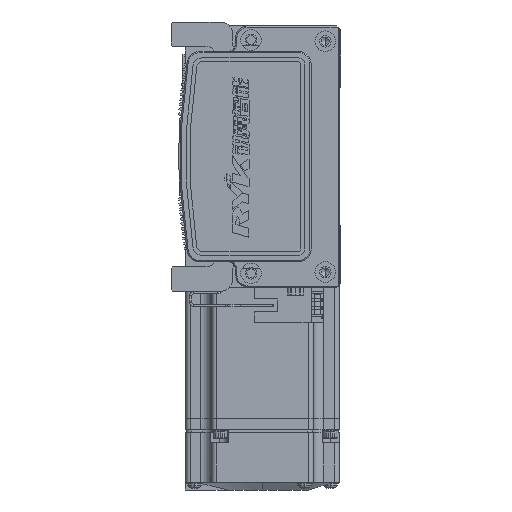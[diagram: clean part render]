
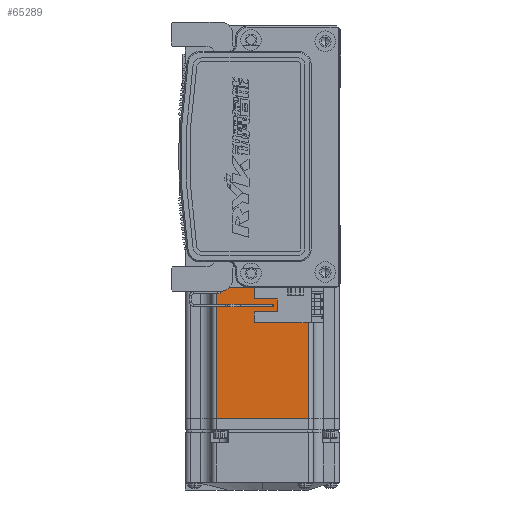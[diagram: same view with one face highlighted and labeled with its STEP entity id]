
A CAD part, left-side view. The second image highlights one B-rep face of the part: STEP entity #65289.
In plain terms, the highlighted planar face has unit normal (-1, 0, 0) as drawn and (0, 0, 1) by its records, which use the part's own axes.
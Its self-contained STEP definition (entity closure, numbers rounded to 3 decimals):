
#2870 = DIRECTION ( 'NONE',  ( 0., 0., 1. ) ) ;
#3095 = ORIENTED_EDGE ( 'NONE', *, *, #6697, .T. ) ;
#5149 = CARTESIAN_POINT ( 'NONE',  ( -6.5, -18., 30. ) ) ;
#5517 = CARTESIAN_POINT ( 'NONE',  ( -70.95, 0., 30. ) ) ;
#5604 = FACE_OUTER_BOUND ( 'NONE', #29617, .T. ) ;
#6586 = VECTOR ( 'NONE', #42618, 1000. ) ;
#6697 = EDGE_CURVE ( 'NONE', #25611, #19102, #34768, .T. ) ;
#9015 = ORIENTED_EDGE ( 'NONE', *, *, #64045, .F. ) ;
#9154 = VECTOR ( 'NONE', #54707, 1000. ) ;
#11230 = VERTEX_POINT ( 'NONE', #51414 ) ;
#16928 = CARTESIAN_POINT ( 'NONE',  ( -70.95, 18., 30. ) ) ;
#17792 = CARTESIAN_POINT ( 'NONE',  ( -6.5, 18., 30. ) ) ;
#19102 = VERTEX_POINT ( 'NONE', #58411 ) ;
#20193 = VERTEX_POINT ( 'NONE', #47122 ) ;
#21458 = VECTOR ( 'NONE', #31594, 1000. ) ;
#23482 = EDGE_CURVE ( 'NONE', #20193, #11230, #65511, .T. ) ;
#25611 = VERTEX_POINT ( 'NONE', #16928 ) ;
#26613 = VECTOR ( 'NONE', #54842, 1000. ) ;
#29339 = CARTESIAN_POINT ( 'NONE',  ( -6.5, -25., 30. ) ) ;
#29617 = EDGE_LOOP ( 'NONE', ( #68103, #53058, #3095, #9015 ) ) ;
#31594 = DIRECTION ( 'NONE',  ( -1., 0., 0. ) ) ;
#32364 = EDGE_CURVE ( 'NONE', #20193, #25611, #57272, .T. ) ;
#32459 = AXIS2_PLACEMENT_3D ( 'NONE', #29339, #2870, #55059 ) ;
#34666 = PLANE ( 'NONE',  #32459 ) ;
#34768 = LINE ( 'NONE', #5517, #6586 ) ;
#42618 = DIRECTION ( 'NONE',  ( 0., -1., 0. ) ) ;
#47122 = CARTESIAN_POINT ( 'NONE',  ( -7.75, 18., 30. ) ) ;
#50529 = LINE ( 'NONE', #5149, #21458 ) ;
#51414 = CARTESIAN_POINT ( 'NONE',  ( -7.75, -18., 30. ) ) ;
#53058 = ORIENTED_EDGE ( 'NONE', *, *, #32364, .T. ) ;
#54018 = CARTESIAN_POINT ( 'NONE',  ( -7.75, 0., 30. ) ) ;
#54707 = DIRECTION ( 'NONE',  ( 0., -1., 0. ) ) ;
#54842 = DIRECTION ( 'NONE',  ( -1., 0., 0. ) ) ;
#55059 = DIRECTION ( 'NONE',  ( 1., 0., 0. ) ) ;
#57272 = LINE ( 'NONE', #17792, #26613 ) ;
#58411 = CARTESIAN_POINT ( 'NONE',  ( -70.95, -18., 30. ) ) ;
#64045 = EDGE_CURVE ( 'NONE', #11230, #19102, #50529, .T. ) ;
#65289 = ADVANCED_FACE ( 'NONE', ( #5604 ), #34666, .T. ) ;
#65511 = LINE ( 'NONE', #54018, #9154 ) ;
#68103 = ORIENTED_EDGE ( 'NONE', *, *, #23482, .F. ) ;
